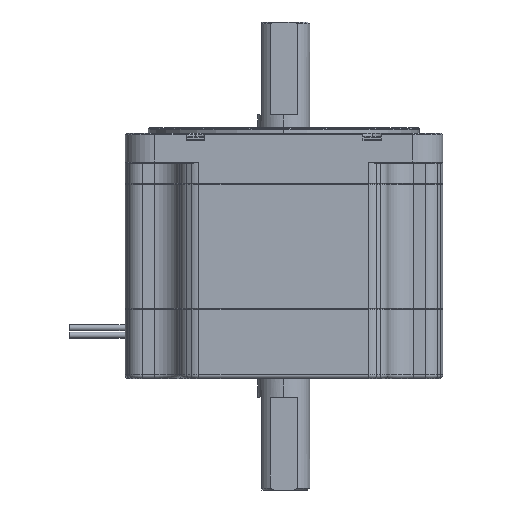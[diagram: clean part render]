
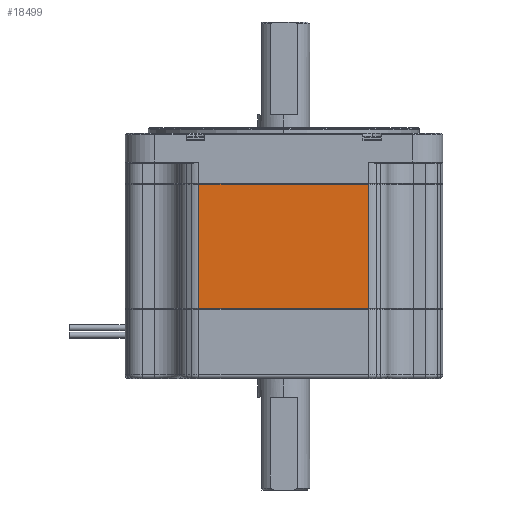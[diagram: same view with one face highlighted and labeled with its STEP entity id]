
A CAD part, left-side view. The second image highlights one B-rep face of the part: STEP entity #18499.
In plain terms, the highlighted planar face has unit normal (-1, 0, 0).
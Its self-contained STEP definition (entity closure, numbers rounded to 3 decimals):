
#2524 = CARTESIAN_POINT ( 'NONE',  ( -42.75, 22.879, -13.7 ) ) ;
#2525 = DIRECTION ( 'NONE',  ( 0., 1., 0. ) ) ;
#2526 = CARTESIAN_POINT ( 'NONE',  ( -42.75, 22.879, -47.3 ) ) ;
#2527 = DIRECTION ( 'NONE',  ( 0., 0., 1. ) ) ;
#2528 = CARTESIAN_POINT ( 'NONE',  ( -42.75, 22.879, -47.1 ) ) ;
#2529 = DIRECTION ( 'NONE',  ( 0., -1., 0. ) ) ;
#2533 = CARTESIAN_POINT ( 'NONE',  ( -42.75, -22.879, -47.3 ) ) ;
#2534 = DIRECTION ( 'NONE',  ( 0., 0., 1. ) ) ;
#5600 = LINE ( 'NONE', #2524, #7376 ) ;
#5601 = LINE ( 'NONE', #2526, #7377 ) ;
#5602 = LINE ( 'NONE', #2528, #7379 ) ;
#5603 = LINE ( 'NONE', #2533, #7382 ) ;
#5867 = FACE_OUTER_BOUND ( 'NONE', #10562, .T. ) ;
#6622 = CARTESIAN_POINT ( 'NONE',  ( -42.75, 22.879, -13.7 ) ) ;
#6623 = CARTESIAN_POINT ( 'NONE',  ( -42.75, 22.879, -47.1 ) ) ;
#6624 = CARTESIAN_POINT ( 'NONE',  ( -42.75, -22.879, -13.7 ) ) ;
#6625 = CARTESIAN_POINT ( 'NONE',  ( -42.75, -22.879, -47.1 ) ) ;
#7376 = VECTOR ( 'NONE', #2525, 1000. ) ;
#7377 = VECTOR ( 'NONE', #2527, 1000. ) ;
#7379 = VECTOR ( 'NONE', #2529, 1000. ) ;
#7382 = VECTOR ( 'NONE', #2534, 1000. ) ;
#10144 = PLANE ( 'NONE',  #19622 ) ;
#10145 = CARTESIAN_POINT ( 'NONE',  ( -42.75, 22.879, -47.3 ) ) ;
#10146 = DIRECTION ( 'NONE',  ( 1., 0., 0. ) ) ;
#10147 = DIRECTION ( 'NONE',  ( 0., 0., -1. ) ) ;
#10562 = EDGE_LOOP ( 'NONE', ( #19090, #19083, #19086, #19082 ) ) ;
#11954 = VERTEX_POINT ( 'NONE', #6622 ) ;
#11955 = VERTEX_POINT ( 'NONE', #6623 ) ;
#11956 = VERTEX_POINT ( 'NONE', #6624 ) ;
#11957 = VERTEX_POINT ( 'NONE', #6625 ) ;
#15924 = EDGE_CURVE ( 'NONE', #11956, #11954, #5600, .T. ) ;
#15925 = EDGE_CURVE ( 'NONE', #11955, #11954, #5601, .T. ) ;
#15926 = EDGE_CURVE ( 'NONE', #11955, #11957, #5602, .T. ) ;
#15928 = EDGE_CURVE ( 'NONE', #11957, #11956, #5603, .T. ) ;
#18499 = ADVANCED_FACE ( 'NONE', ( #5867 ), #10144, .F. ) ;
#19082 = ORIENTED_EDGE ( 'NONE', *, *, #15924, .T. ) ;
#19083 = ORIENTED_EDGE ( 'NONE', *, *, #15926, .T. ) ;
#19086 = ORIENTED_EDGE ( 'NONE', *, *, #15928, .T. ) ;
#19090 = ORIENTED_EDGE ( 'NONE', *, *, #15925, .F. ) ;
#19622 = AXIS2_PLACEMENT_3D ( 'NONE', #10145, #10146, #10147 ) ;
